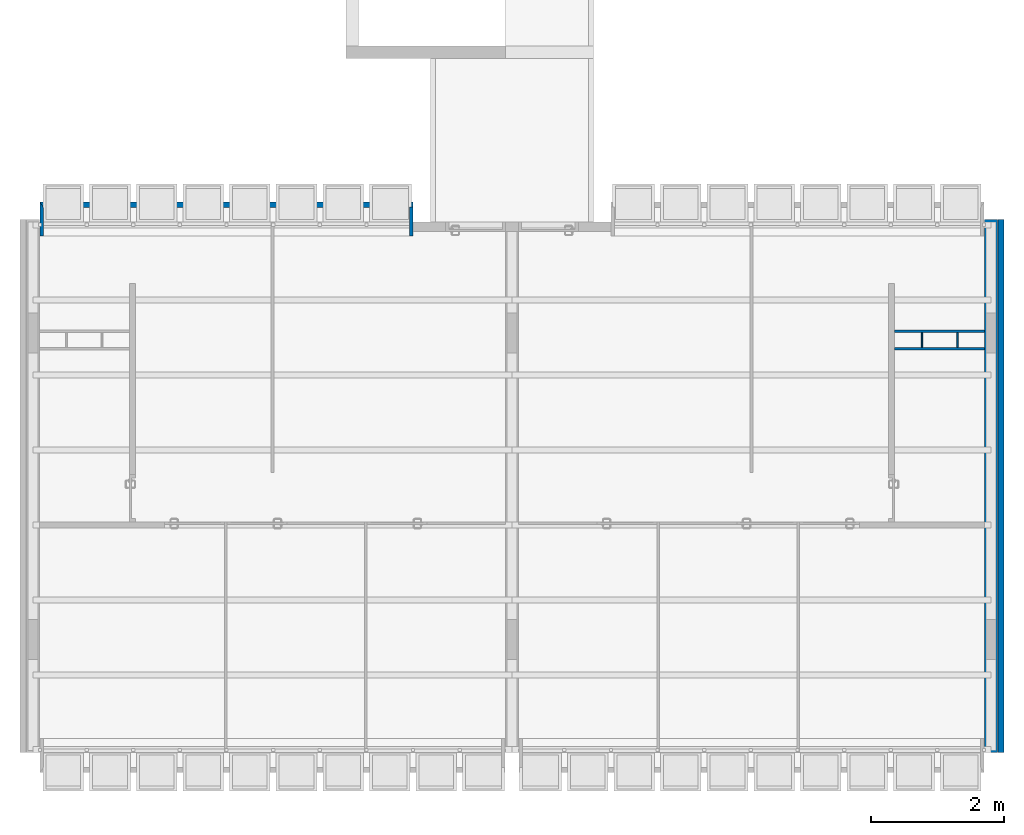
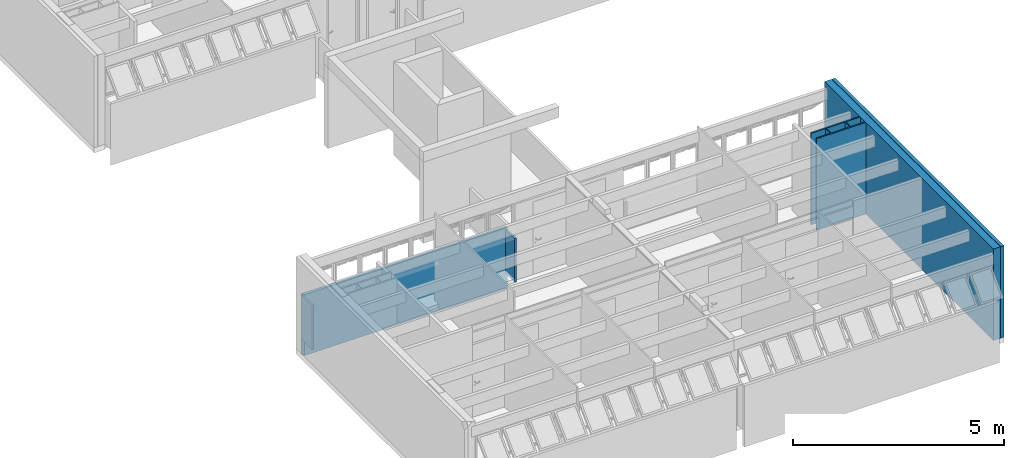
# One storey, part 12 of 37: 9 walls.
"""IFC2X3 building model written with IfcOpenShell, lengths in millimetres."""

from ifc_helpers import new_model, entity, si_unit, converted_unit, derived_unit, money_unit, direction, frame, origin_with_axes, place, context, subcontext, project, spatial, polyline, outline, extrude, material, layer, layer_set, layer_usage, type_object, element, save


model = new_model("IFC2X3")

# Units and contexts
model_context = context("Model", 3, precision=0.01, world=origin_with_axes(), true_north=direction((0.0, 1.0)))
body_context = subcontext(model_context, "Body", "Model", "MODEL_VIEW")
ifc_project = project(units=[si_unit("LENGTHUNIT", "METRE", prefix="MILLI"), si_unit("AREAUNIT", "SQUARE_METRE"), si_unit("VOLUMEUNIT", "CUBIC_METRE"), converted_unit("PLANEANGLEUNIT", "DEGREE", entity("IfcPlaneAngleMeasure", 0.0174532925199), si_unit("PLANEANGLEUNIT", "RADIAN"), dimensions=[0, 0, 0, 0, 0, 0, 0]), money_unit("USD"), converted_unit("TIMEUNIT", "Year", entity("IfcTimeMeasure", 31556926.0), si_unit("TIMEUNIT", "SECOND"), dimensions=[0, 0, 1, 0, 0, 0, 0]), si_unit("MASSUNIT", "GRAM", prefix="KILO"), si_unit("THERMODYNAMICTEMPERATUREUNIT", "DEGREE_CELSIUS"), si_unit("LUMINOUSINTENSITYUNIT", "LUMEN"), si_unit("ENERGYUNIT", "JOULE", prefix="MEGA"), derived_unit("THERMALCONDUCTANCEUNIT", [(si_unit("POWERUNIT", "WATT"), 1), (si_unit("LENGTHUNIT", "METRE"), -1), (si_unit("THERMODYNAMICTEMPERATUREUNIT", "KELVIN"), -1)]), derived_unit("SPECIFICHEATCAPACITYUNIT", [(si_unit("ENERGYUNIT", "JOULE"), 1), (si_unit("MASSUNIT", "GRAM", prefix="KILO"), -1), (si_unit("THERMODYNAMICTEMPERATUREUNIT", "KELVIN"), -1)]), derived_unit("MASSDENSITYUNIT", [(si_unit("MASSUNIT", "GRAM", prefix="KILO"), 1), (si_unit("VOLUMEUNIT", "CUBIC_METRE"), -1)])], contexts=[model_context])

# Site, building, storey
site_placement = place(None, origin_with_axes())
site = spatial("IfcSite", under=ifc_project, at=site_placement, Name="Local", CompositionType="ELEMENT")
building_placement = place(site_placement, origin_with_axes())
building = spatial("IfcBuilding", under=site, at=building_placement, Name="Construção", CompositionType="ELEMENT")
storey_placement = place(building_placement, frame((0.0, 0.0, 5300.0), z_axis=(0.0, 0.0, 1.0), x_axis=(1.0, 0.0, 0.0)))
storey = spatial("IfcBuildingStorey", under=building, at=storey_placement, Name="Terceiro Pavimento", CompositionType="ELEMENT", Elevation=5300.0)

# Walls
ifc_material_1 = material(Name="GENÉRICO - VEDAÇÃO EXTERNA")
ifc_layer_1 = layer(ifc_material_1, 190.0, ventilated="UNKNOWN")
ifc_layer_set_1 = layer_set([ifc_layer_1], Name="GENÉRICO - VEDAÇÃO EXTERNA 190")
ifc_layer_usage_1 = layer_usage(ifc_layer_set_1, "AXIS2", "POSITIVE", 0.0)
wall_type_1 = type_object("IfcWallType", Name="GENÉRICO - VEDAÇÃO EXTERNA 190", PredefinedType="NOTDEFINED")
wall_1_placement = place(storey_placement, frame((14480.0, 8300.0, 0.0), z_axis=(0.0, 0.0, 1.0), x_axis=(0.0, -1.0, 0.0)))
element("IfcWallStandardCase", 1, at=wall_1_placement, inside=storey, type_object=wall_type_1, material=ifc_layer_usage_1, Name="APTO10-PAREDE-013", context=body_context, shape_type="SweptSolid", body=[
    extrude(outline(polyline([(0.0, 0.0), (8000.0, 0.0), (8000.0, 190.0), (0.0, 190.0), (0.0, 0.0)])), origin_with_axes(), (0.0, 0.0, 1.0), 2650.0),
])
ifc_layer_2 = layer(ifc_material_1, 40.0, ventilated="UNKNOWN")
ifc_layer_set_2 = layer_set([ifc_layer_2], Name="GENÉRICO - VEDAÇÃO EXTERNA 40")
ifc_layer_usage_2 = layer_usage(ifc_layer_set_2, "AXIS2", "POSITIVE", -40.0)
wall_type_2 = type_object("IfcWallType", Name="GENÉRICO - VEDAÇÃO EXTERNA 40", PredefinedType="NOTDEFINED")
wall_2_placement = place(storey_placement, frame((14480.0, 6345.0, 0.0), z_axis=(0.0, 0.0, 1.0), x_axis=(-1.0, 0.0, 0.0)))
element("IfcWallStandardCase", 2, at=wall_2_placement, inside=storey, type_object=wall_type_2, material=ifc_layer_usage_2, Name="APTO10-PAREDE-011", context=body_context, shape_type="SweptSolid", body=[
    extrude(outline(polyline([(0.0, -40.0), (1350.0, -40.0), (1350.0, 0.0), (0.0, 0.0), (0.0, -40.0)])), origin_with_axes(), (0.0, 0.0, 1.0), 2650.0),
])
ifc_layer_usage_3 = layer_usage(ifc_layer_set_2, "AXIS2", "POSITIVE", -40.0)
wall_3_placement = place(storey_placement, frame((13040.0, 6645.0, 0.0), z_axis=(0.0, 0.0, 1.0), x_axis=(1.0, 0.0, 0.0)))
element("IfcWallStandardCase", 3, at=wall_3_placement, inside=storey, type_object=wall_type_2, material=ifc_layer_usage_3, Name="APTO10-PAREDE-010", context=body_context, shape_type="SweptSolid", body=[
    extrude(outline(polyline([(90.0, -40.0), (1440.0, -40.0), (1440.0, 0.0), (90.0, 0.0), (90.0, -40.0)])), origin_with_axes(), (0.0, 0.0, 1.0), 2650.0),
])
ifc_layer_3 = layer(ifc_material_1, 90.0, ventilated="UNKNOWN")
ifc_layer_set_3 = layer_set([ifc_layer_3], Name="GENÉRICO - VEDAÇÃO EXTERNA 90")
ifc_layer_usage_4 = layer_usage(ifc_layer_set_3, "AXIS2", "POSITIVE", 0.0)
wall_type_3 = type_object("IfcWallType", Name="GENÉRICO - VEDAÇÃO EXTERNA 90", PredefinedType="NOTDEFINED")
wall_4_placement = place(storey_placement, frame((14680.0, 8300.0, 0.0), z_axis=(0.0, 0.0, 1.0), x_axis=(0.0, -1.0, 0.0)))
element("IfcWallStandardCase", 4, at=wall_4_placement, inside=storey, type_object=wall_type_3, material=ifc_layer_usage_4, Name="APTO10-PAREDE-014", context=body_context, shape_type="SweptSolid", body=[
    extrude(outline(polyline([(0.0, 0.0), (8000.0, 0.0), (8000.0, 90.0), (0.0, 90.0), (0.0, 0.0)])), origin_with_axes(), (0.0, 0.0, 1.0), 2650.0),
])
ifc_material_2 = material(Name="Concreto Armado Moldado in Loco - Estrutural")
ifc_layer_4 = layer(ifc_material_2, 50.0, ventilated="UNKNOWN")
ifc_layer_set_4 = layer_set([ifc_layer_4], Name="Concreto Armado Moldado in Loco - Estrutural 50")
ifc_layer_usage_5 = layer_usage(ifc_layer_set_4, "AXIS2", "POSITIVE", -50.0)
wall_type_4 = type_object("IfcWallType", Name="Concreto Armado Moldado in Loco - Estrutural 50", PredefinedType="NOTDEFINED")
wall_5_placement = place(storey_placement, frame((5850.0, 8054.99999866, 0.0), z_axis=(0.0, 0.0, 1.0), x_axis=(0.0, 1.0, 0.0)))
element("IfcWallStandardCase", 5, at=wall_5_placement, inside=storey, type_object=wall_type_4, material=ifc_layer_usage_5, Name="APTO9-PAREDE-016", context=body_context, shape_type="SweptSolid", body=[
    extrude(outline(polyline([(0.0, -50.0), (435.0, -50.0), (435.0, 0.0), (0.0, 0.0), (0.0, -50.0)])), origin_with_axes(), (0.0, 0.0, 1.0), 1270.0),
])
ifc_layer_usage_6 = layer_usage(ifc_layer_set_4, "AXIS2", "POSITIVE", -50.0)
wall_6_placement = place(storey_placement, frame((300.0, 8054.99999866, 0.0), z_axis=(0.0, 0.0, 1.0), x_axis=(0.0, 1.0, 0.0)))
element("IfcWallStandardCase", 6, at=wall_6_placement, inside=storey, type_object=wall_type_4, material=ifc_layer_usage_6, Name="APTO9-PAREDE-018", context=body_context, shape_type="SweptSolid", body=[
    extrude(outline(polyline([(0.0, -50.0), (430.0, -50.0), (510.0, 0.0), (0.0, 0.0), (0.0, -50.0)])), origin_with_axes(), (0.0, 0.0, 1.0), 1270.0),
])
ifc_layer_5 = layer(ifc_material_1, 20.0, ventilated="UNKNOWN")
ifc_layer_set_5 = layer_set([ifc_layer_5], Name="GENÉRICO - VEDAÇÃO EXTERNA 20")
ifc_layer_usage_7 = layer_usage(ifc_layer_set_5, "AXIS2", "POSITIVE", -20.0)
wall_type_5 = type_object("IfcWallType", Name="GENÉRICO - VEDAÇÃO EXTERNA 20", PredefinedType="NOTDEFINED")
wall_7_placement = place(storey_placement, frame((14060.0, 6345.0, 0.0), z_axis=(0.0, 0.0, 1.0), x_axis=(0.0, 1.0, 0.0)))
element("IfcWallStandardCase", 7, at=wall_7_placement, inside=storey, type_object=wall_type_5, material=ifc_layer_usage_7, Name="APTO10-PAREDE-009", context=body_context, shape_type="SweptSolid", body=[
    extrude(outline(polyline([(40.0, -20.0), (260.0, -20.0), (260.0, 0.0), (40.0, 0.0), (40.0, -20.0)])), origin_with_axes(), (0.0, 0.0, 1.0), 2650.0),
])
ifc_layer_usage_8 = layer_usage(ifc_layer_set_5, "AXIS2", "POSITIVE", 0.0)
wall_8_placement = place(storey_placement, frame((13530.0, 6645.0, 0.0), z_axis=(0.0, 0.0, 1.0), x_axis=(0.0, -1.0, 0.0)))
element("IfcWallStandardCase", 8, at=wall_8_placement, inside=storey, type_object=wall_type_5, material=ifc_layer_usage_8, Name="APTO10-PAREDE-008", context=body_context, shape_type="SweptSolid", body=[
    extrude(outline(polyline([(40.0, 0.0), (260.0, 0.0), (260.0, 20.0), (40.0, 20.0), (40.0, 0.0)])), origin_with_axes(), (0.0, 0.0, 1.0), 2650.0),
])
ifc_layer_6 = layer(ifc_material_2, 80.0, ventilated="UNKNOWN")
ifc_layer_set_6 = layer_set([ifc_layer_6], Name="Concreto Armado Moldado in Loco - Estrutural 80")
ifc_layer_usage_9 = layer_usage(ifc_layer_set_6, "AXIS2", "NEGATIVE", 80.0)
wall_type_6 = type_object("IfcWallType", Name="Concreto Armado Moldado in Loco - Estrutural 80", PredefinedType="NOTDEFINED")
wall_9_placement = place(storey_placement, frame((300.0, 8484.99999866, -450.0), z_axis=(0.0, 0.0, 1.0), x_axis=(1.0, 0.0, 0.0)))
element("IfcWallStandardCase", 9, at=wall_9_placement, inside=storey, type_object=wall_type_6, material=ifc_layer_usage_9, Name="APTO9-PAREDE-017", context=body_context, shape_type="SweptSolid", body=[
    extrude(outline(polyline([(50.0, 0.0), (5600.0, 0.0), (5600.0, 80.0), (0.0, 80.0), (50.0, 0.0)])), origin_with_axes(), (0.0, 0.0, 1.0), 1765.0),
])

save(model, "model.ifc")
